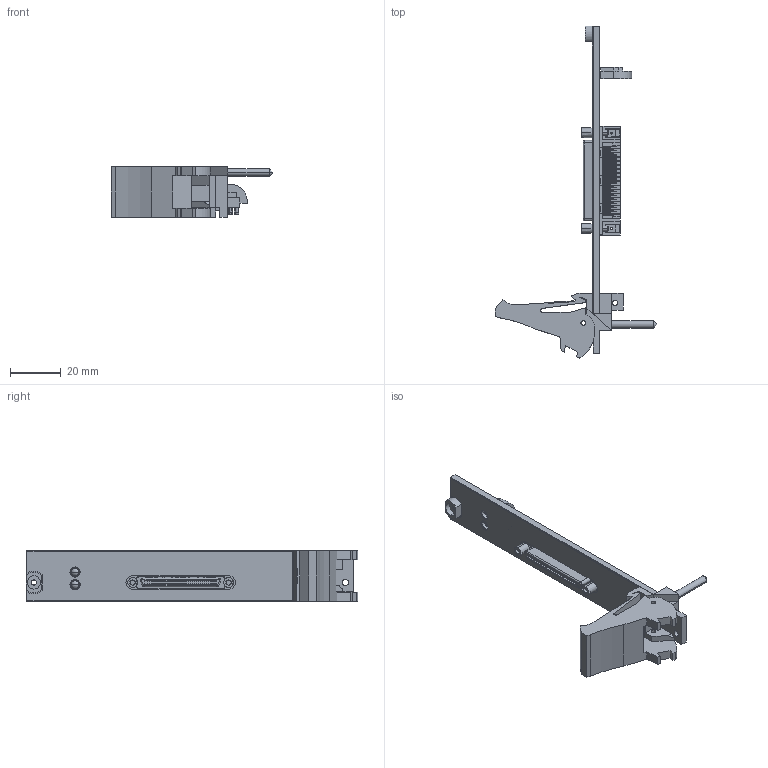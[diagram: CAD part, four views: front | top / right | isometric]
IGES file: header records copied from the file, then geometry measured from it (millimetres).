
Start section:  PTC IGES file: cu_pxie-6537.igs
Global section: file name: cu_pxie-6537.igs; native system: Pro/ENGINEER by Parametric Technology Corporation; preprocessor: 2006080; author: lmcdanie; organization: Unknown; date: 070803.164548; units: inch
Bounding box: 63.53 x 130.5 x 20.02 mm (x, y, z)
Surface area: 14681.7 mm2 (no closed solid volume)
Topology: 0 solids, 0 shells, 1888 faces, 10304 edges, 10300 vertices
Faces by surface type: bspline 1521, revolution 367
